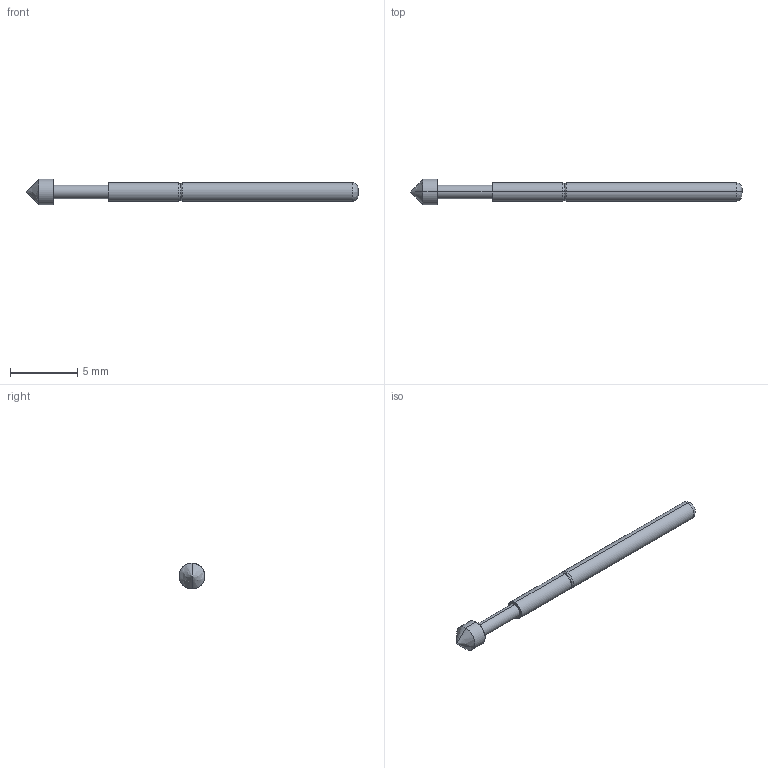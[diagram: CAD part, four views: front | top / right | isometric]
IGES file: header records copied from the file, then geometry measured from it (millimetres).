
Start section: SolidWorks IGES file using analytic representation for surfaces
Global section: file name: Z:\probe solid model mockups\Solidworks models\IGES Files\EPA-2\EPA-2E.IGS; native system: SolidWorks 2006 by SolidWorks Corporation; preprocessor: SolidWorks 2006 by SolidWorks Corporation; author: tsakatani; date: 071220.161720; units: inch
Bounding box: 24.64 x 1.91 x 1.91 mm (x, y, z)
Surface area: 106.8 mm2 (no closed solid volume)
Topology: 0 solids, 0 shells, 19 faces, 160 edges, 158 vertices
Faces by surface type: revolution 10, bspline 9
